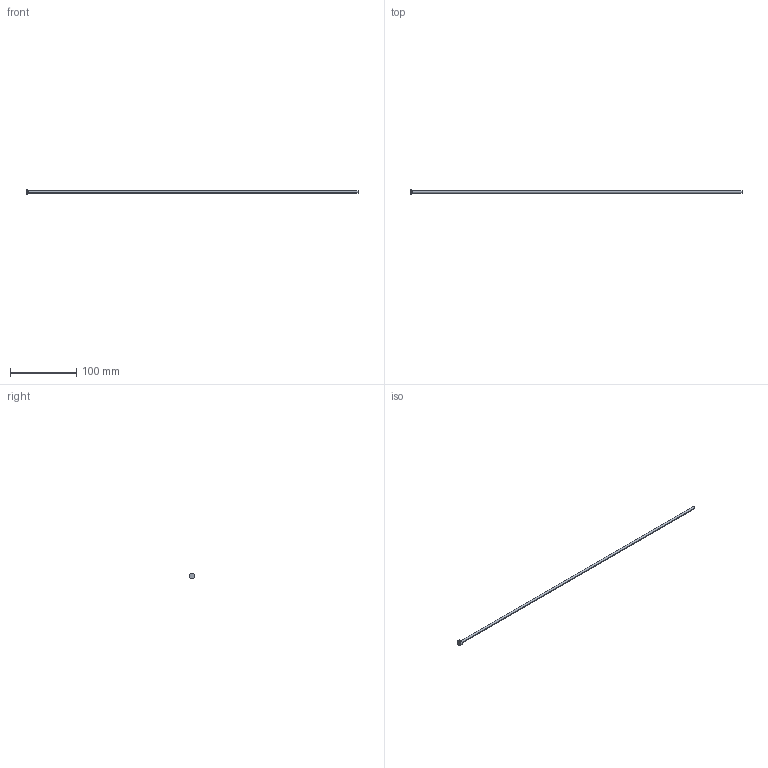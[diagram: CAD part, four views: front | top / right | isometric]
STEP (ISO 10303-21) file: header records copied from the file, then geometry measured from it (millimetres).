
FILE_DESCRIPTION (( 'STEP AP214' ), '1' );
FILE_NAME ('A-4x500.STEP', '2020-05-29T10:28:49', ( 'August' ), ( '' ), 'SwSTEP 2.0', 'SolidWorks 2018', '' );
FILE_SCHEMA (( 'AUTOMOTIVE_DESIGN' ));
Length unit declared in the file: millimetre
Products named in the file (1): A-4x500
Bounding box: 500 x 8 x 8 mm (x, y, z)
Volume: 6396.5 mm3; surface area: 6419.8 mm2
Topology: 1 solids, 1 shells, 9 faces, 16 edges, 10 vertices
Faces by surface type: cylinder 4, plane 3, torus 2
Entity records: 260 total; most frequent: DIRECTION 48, CARTESIAN_POINT 36, ORIENTED_EDGE 32, AXIS2_PLACEMENT_3D 22, EDGE_CURVE 16, CIRCLE 12, EDGE_LOOP 10, VERTEX_POINT 10
